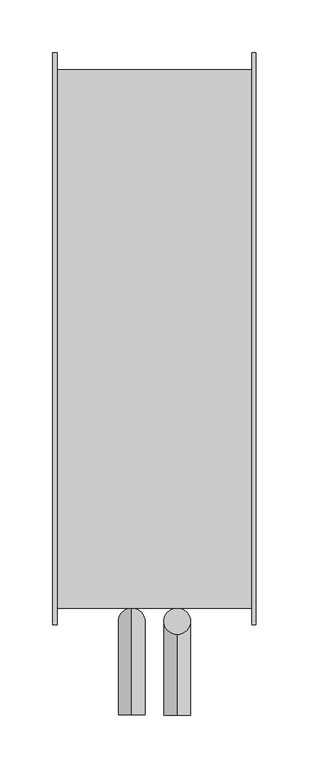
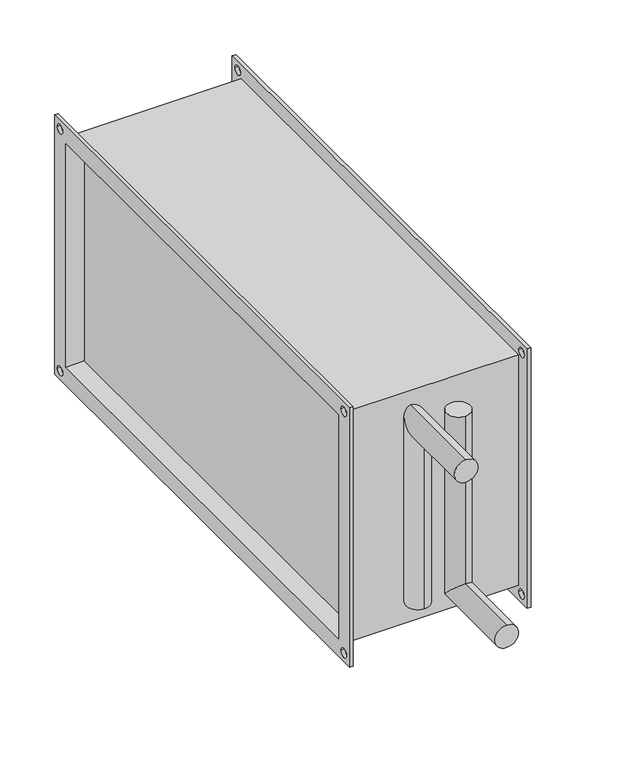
"""IFC4 building model written with IfcOpenShell, lengths in millimetres: proxy geometry, СВ_ВоздухонагревательВодяной_КанальныйПрямоугольный_200-1000_SPH-W : SPH-W-500x250/3."""

from ifc_helpers import new_model, si_unit, frame, origin, place, context, project, spatial, polyline, circle_curve, ellipse_curve, source, transform, mapped, element, save
from ifc_brep_helpers import plane_surface, cylinder_surface, revolved_surface, advanced_brep


def mechanical_equipment_d87ded08(model_context):
    return source(origin(), model_context, "Body", "AdvancedBrep", [
        advanced_brep(
        [(21.5, -254.0, 100.0), (21.5, -279.0, 100.0), (21.5, -254.0, -112.5), (21.5, -279.0, -87.5), (21.5, -355.0, -112.5), (21.5, -355.0, -87.5)],
        [
            (0, 1, circle_curve(frame((21.5, -266.5, 100.0), z_axis=(0.0, 0.0, 1.0), x_axis=(0.0, -1.0, 0.0)), 12.5)),
            (1, 0, circle_curve(frame((21.5, -266.5, 100.0), z_axis=(0.0, 0.0, 1.0), x_axis=(0.0, -1.0, 0.0)), 12.5)),
            (0, 2),
            (2, 3, ellipse_curve(frame((21.5, -266.5, -100.0), z_axis=(0.0, 0.7071067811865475, 0.7071067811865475), x_axis=(0.0, -0.7071067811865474, 0.7071067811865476)), 17.6776695, 12.5)),
            (3, 1),
            (3, 2, ellipse_curve(frame((21.5, -266.5, -100.0), z_axis=(0.0, 0.7071067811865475, 0.7071067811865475), x_axis=(0.0, -0.7071067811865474, 0.7071067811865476)), 17.6776695, 12.5)),
            (4, 5, circle_curve(frame((21.5, -355.0, -100.0), z_axis=(0.0, -1.0, 0.0), x_axis=(0.0, 0.0, 1.0)), 12.5)),
            (5, 4, circle_curve(frame((21.5, -355.0, -100.0), z_axis=(0.0, -1.0, 0.0), x_axis=(0.0, 0.0, 1.0)), 12.5)),
            (2, 4),
            (5, 3),
        ],
        [
            plane_surface(frame((21.5, -266.5, 100.0), z_axis=(0.0, 0.0, 1.0), x_axis=(-1.0, 0.0, 0.0))),
            cylinder_surface(frame((21.5, -266.5, 100.0), z_axis=(0.0, 0.0, 1.0), x_axis=(0.0, -1.0, 0.0)), 12.5),
            plane_surface(frame((21.5, -355.0, -100.0), z_axis=(0.0, -1.0, 0.0), x_axis=(-1.0, 0.0, 0.0))),
            cylinder_surface(frame((21.5, -266.5, -100.0), z_axis=(0.0, 1.0, 0.0), x_axis=(0.0, 0.0, 1.0)), 12.5),
        ],
        [
            (0, [[1, 2]]),
            (1, [[-1, 3, 4, 5]]),
            (1, [[-2, -5, 6, -3]]),
            (2, [[7, 8]]),
            (3, [[-4, 9, -8, 10]]),
            (3, [[-6, -10, -7, -9]]),
        ],
    ),
        advanced_brep(
        [(-21.5, -254.0, -100.0), (-21.5, -279.0, -100.0), (-21.5, -254.0, 112.5), (-21.5, -279.0, 87.5), (-21.5, -355.0, 112.5), (-21.5, -355.0, 87.5)],
        [
            (0, 1, circle_curve(frame((-21.5, -266.5, -100.0), z_axis=(0.0, 0.0, -1.0), x_axis=(0.0, -1.0, 0.0)), 12.5)),
            (1, 0, circle_curve(frame((-21.5, -266.5, -100.0), z_axis=(0.0, 0.0, -1.0), x_axis=(0.0, -1.0, 0.0)), 12.5)),
            (0, 2),
            (2, 3, ellipse_curve(frame((-21.5, -266.5, 100.0), z_axis=(0.0, 0.7071067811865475, -0.7071067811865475), x_axis=(0.0, -0.7071067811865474, -0.7071067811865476)), 17.6776695, 12.5)),
            (3, 1),
            (3, 2, ellipse_curve(frame((-21.5, -266.5, 100.0), z_axis=(0.0, 0.7071067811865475, -0.7071067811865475), x_axis=(0.0, -0.7071067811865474, -0.7071067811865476)), 17.6776695, 12.5)),
            (4, 5, circle_curve(frame((-21.5, -355.0, 100.0), z_axis=(0.0, -1.0, 0.0), x_axis=(0.0, 0.0, -1.0)), 12.5)),
            (5, 4, circle_curve(frame((-21.5, -355.0, 100.0), z_axis=(0.0, -1.0, 0.0), x_axis=(0.0, 0.0, -1.0)), 12.5)),
            (2, 4),
            (5, 3),
        ],
        [
            plane_surface(frame((-21.5, -266.5, -100.0), z_axis=(0.0, 0.0, -1.0), x_axis=(1.0, 0.0, 0.0))),
            cylinder_surface(frame((-21.5, -266.5, -100.0), z_axis=(0.0, 0.0, -1.0), x_axis=(0.0, -1.0, 0.0)), 12.5),
            plane_surface(frame((-21.5, -355.0, 100.0), z_axis=(0.0, -1.0, 0.0), x_axis=(1.0, 0.0, 0.0))),
            cylinder_surface(frame((-21.5, -266.5, 100.0), z_axis=(0.0, 1.0, 0.0), x_axis=(0.0, 0.0, -1.0)), 12.5),
        ],
        [
            (0, [[1, 2]]),
            (1, [[-1, 3, 4, 5]]),
            (1, [[-2, -5, 6, -3]]),
            (2, [[7, 8]]),
            (3, [[-4, 9, -8, 10]]),
            (3, [[-6, -10, -7, -9]]),
        ],
    ),
        advanced_brep(
        [(-92.0, -254.0, 129.0), (-92.0, -254.0, -129.0), (92.0, -254.0, -129.0), (92.0, -254.0, 129.0), (-92.0, 254.0, -129.0), (92.0, 254.0, -129.0), (-92.0, 254.0, 129.0), (92.0, 254.0, 129.0), (76.0, 250.0, -125.0), (76.0, 250.0, 125.0), (76.0, -250.0, 125.0), (76.0, -250.0, -125.0), (-76.0, -250.0, 125.0), (-76.0, 250.0, 125.0), (-76.0, 250.0, -125.0), (-76.0, -250.0, -125.0), (-96.0, -270.0, 145.0), (-96.0, 270.0, 145.0), (-96.0, 270.0, -145.0), (-96.0, -270.0, -145.0), (-96.0, -250.0, 125.0), (-96.0, -250.0, -125.0), (-96.0, 250.0, -125.0), (-96.0, 250.0, 125.0), (-96.0, 255.0, 135.0), (-96.0, 265.0, 135.0), (-96.0, -265.0, 135.0), (-96.0, -255.0, 135.0), (-96.0, -265.0, -135.0), (-96.0, -255.0, -135.0), (-96.0, 255.0, -135.0), (-96.0, 265.0, -135.0), (-92.0, -270.0, 145.0), (-92.0, -270.0, -145.0), (-92.0, 270.0, -145.0), (-92.0, 270.0, 145.0), (-92.0, 265.0, 135.0), (-92.0, 255.0, 135.0), (-92.0, -255.0, 135.0), (-92.0, -265.0, 135.0), (-92.0, -255.0, -135.0), (-92.0, -265.0, -135.0), (-92.0, 265.0, -135.0), (-92.0, 255.0, -135.0), (92.0, 270.0, 145.0), (92.0, 270.0, -145.0), (92.0, -270.0, -145.0), (92.0, -270.0, 145.0), (92.0, 255.0, 135.0), (92.0, 265.0, 135.0), (92.0, -265.0, 135.0), (92.0, -255.0, 135.0), (92.0, -265.0, -135.0), (92.0, -255.0, -135.0), (92.0, 255.0, -135.0), (92.0, 265.0, -135.0), (96.0, 270.0, 145.0), (96.0, -270.0, 145.0), (96.0, -270.0, -145.0), (96.0, 270.0, -145.0), (96.0, 250.0, 125.0), (96.0, 250.0, -125.0), (96.0, -250.0, -125.0), (96.0, -250.0, 125.0), (96.0, 265.0, 135.0), (96.0, 255.0, 135.0), (96.0, -255.0, 135.0), (96.0, -265.0, 135.0), (96.0, -255.0, -135.0), (96.0, -265.0, -135.0), (96.0, 265.0, -135.0), (96.0, 255.0, -135.0)],
        [
            (0, 1),
            (1, 2),
            (2, 3),
            (3, 0),
            (1, 4),
            (4, 5),
            (5, 2),
            (4, 6),
            (6, 7),
            (7, 5),
            (6, 0),
            (3, 7),
            (8, 9),
            (9, 10),
            (10, 11),
            (11, 8),
            (12, 13),
            (13, 14),
            (14, 15),
            (15, 12),
            (16, 17),
            (17, 18),
            (18, 19),
            (19, 16),
            (20, 21),
            (21, 22),
            (22, 23),
            (23, 20),
            (24, 25, circle_curve(frame((-96.0, 260.0, 135.0), z_axis=(1.0, 0.0, 0.0), x_axis=(0.0, -1.0, 0.0)), 5.0)),
            (25, 24, circle_curve(frame((-96.0, 260.0, 135.0), z_axis=(1.0, 0.0, 0.0), x_axis=(0.0, -1.0, 0.0)), 5.0)),
            (26, 27, circle_curve(frame((-96.0, -260.0, 135.0), z_axis=(1.0, 0.0, 0.0), x_axis=(0.0, -1.0, 0.0)), 5.0)),
            (27, 26, circle_curve(frame((-96.0, -260.0, 135.0), z_axis=(1.0, 0.0, 0.0), x_axis=(0.0, -1.0, 0.0)), 5.0)),
            (28, 29, circle_curve(frame((-96.0, -260.0, -135.0), z_axis=(1.0, 0.0, 0.0), x_axis=(0.0, -1.0, 0.0)), 5.0)),
            (29, 28, circle_curve(frame((-96.0, -260.0, -135.0), z_axis=(1.0, 0.0, 0.0), x_axis=(0.0, -1.0, 0.0)), 5.0)),
            (30, 31, circle_curve(frame((-96.0, 260.0, -135.0), z_axis=(1.0, 0.0, 0.0), x_axis=(0.0, -1.0, 0.0)), 5.0)),
            (31, 30, circle_curve(frame((-96.0, 260.0, -135.0), z_axis=(1.0, 0.0, 0.0), x_axis=(0.0, -1.0, 0.0)), 5.0)),
            (32, 33),
            (33, 34),
            (34, 35),
            (35, 32),
            (36, 37, circle_curve(frame((-92.0, 260.0, 135.0), z_axis=(-1.0, 0.0, 0.0), x_axis=(0.0, -1.0, 0.0)), 5.0)),
            (37, 36, circle_curve(frame((-92.0, 260.0, 135.0), z_axis=(-1.0, 0.0, 0.0), x_axis=(0.0, -1.0, 0.0)), 5.0)),
            (38, 39, circle_curve(frame((-92.0, -260.0, 135.0), z_axis=(-1.0, 0.0, 0.0), x_axis=(0.0, -1.0, 0.0)), 5.0)),
            (39, 38, circle_curve(frame((-92.0, -260.0, 135.0), z_axis=(-1.0, 0.0, 0.0), x_axis=(0.0, -1.0, 0.0)), 5.0)),
            (40, 41, circle_curve(frame((-92.0, -260.0, -135.0), z_axis=(-1.0, 0.0, 0.0), x_axis=(0.0, -1.0, 0.0)), 5.0)),
            (41, 40, circle_curve(frame((-92.0, -260.0, -135.0), z_axis=(-1.0, 0.0, 0.0), x_axis=(0.0, -1.0, 0.0)), 5.0)),
            (42, 43, circle_curve(frame((-92.0, 260.0, -135.0), z_axis=(-1.0, 0.0, 0.0), x_axis=(0.0, -1.0, 0.0)), 5.0)),
            (43, 42, circle_curve(frame((-92.0, 260.0, -135.0), z_axis=(-1.0, 0.0, 0.0), x_axis=(0.0, -1.0, 0.0)), 5.0)),
            (19, 33),
            (32, 16),
            (18, 34),
            (17, 35),
            (44, 45),
            (45, 46),
            (46, 47),
            (47, 44),
            (48, 49, circle_curve(frame((92.0, 260.0, 135.0), z_axis=(1.0, 0.0, 0.0), x_axis=(0.0, -1.0, 0.0)), 5.0)),
            (49, 48, circle_curve(frame((92.0, 260.0, 135.0), z_axis=(1.0, 0.0, 0.0), x_axis=(0.0, -1.0, 0.0)), 5.0)),
            (50, 51, circle_curve(frame((92.0, -260.0, 135.0), z_axis=(1.0, 0.0, 0.0), x_axis=(0.0, -1.0, 0.0)), 5.0)),
            (51, 50, circle_curve(frame((92.0, -260.0, 135.0), z_axis=(1.0, 0.0, 0.0), x_axis=(0.0, -1.0, 0.0)), 5.0)),
            (52, 53, circle_curve(frame((92.0, -260.0, -135.0), z_axis=(1.0, 0.0, 0.0), x_axis=(0.0, -1.0, 0.0)), 5.0)),
            (53, 52, circle_curve(frame((92.0, -260.0, -135.0), z_axis=(1.0, 0.0, 0.0), x_axis=(0.0, -1.0, 0.0)), 5.0)),
            (54, 55, circle_curve(frame((92.0, 260.0, -135.0), z_axis=(1.0, 0.0, 0.0), x_axis=(0.0, -1.0, 0.0)), 5.0)),
            (55, 54, circle_curve(frame((92.0, 260.0, -135.0), z_axis=(1.0, 0.0, 0.0), x_axis=(0.0, -1.0, 0.0)), 5.0)),
            (56, 57),
            (57, 58),
            (58, 59),
            (59, 56),
            (60, 61),
            (61, 62),
            (62, 63),
            (63, 60),
            (64, 65, circle_curve(frame((96.0, 260.0, 135.0), z_axis=(-1.0, 0.0, 0.0), x_axis=(0.0, -1.0, 0.0)), 5.0)),
            (65, 64, circle_curve(frame((96.0, 260.0, 135.0), z_axis=(-1.0, 0.0, 0.0), x_axis=(0.0, -1.0, 0.0)), 5.0)),
            (66, 67, circle_curve(frame((96.0, -260.0, 135.0), z_axis=(-1.0, 0.0, 0.0), x_axis=(0.0, -1.0, 0.0)), 5.0)),
            (67, 66, circle_curve(frame((96.0, -260.0, 135.0), z_axis=(-1.0, 0.0, 0.0), x_axis=(0.0, -1.0, 0.0)), 5.0)),
            (68, 69, circle_curve(frame((96.0, -260.0, -135.0), z_axis=(-1.0, 0.0, 0.0), x_axis=(0.0, -1.0, 0.0)), 5.0)),
            (69, 68, circle_curve(frame((96.0, -260.0, -135.0), z_axis=(-1.0, 0.0, 0.0), x_axis=(0.0, -1.0, 0.0)), 5.0)),
            (70, 71, circle_curve(frame((96.0, 260.0, -135.0), z_axis=(-1.0, 0.0, 0.0), x_axis=(0.0, -1.0, 0.0)), 5.0)),
            (71, 70, circle_curve(frame((96.0, 260.0, -135.0), z_axis=(-1.0, 0.0, 0.0), x_axis=(0.0, -1.0, 0.0)), 5.0)),
            (47, 57),
            (56, 44),
            (46, 58),
            (45, 59),
            (23, 13),
            (12, 20),
            (22, 14),
            (21, 15),
            (60, 9),
            (8, 61),
            (11, 62),
            (10, 63),
            (36, 25),
            (24, 37),
            (64, 49),
            (48, 65),
            (38, 27),
            (26, 39),
            (66, 51),
            (50, 67),
            (40, 29),
            (28, 41),
            (68, 53),
            (52, 69),
            (42, 31),
            (30, 43),
            (70, 55),
            (54, 71),
        ],
        [
            plane_surface(frame((-76.0, -254.0, 129.0), z_axis=(0.0, -1.0, 0.0), x_axis=(-1.0, 0.0, 0.0))),
            plane_surface(frame((-76.0, -254.0, -129.0), z_axis=(0.0, 0.0, -1.0), x_axis=(-1.0, 0.0, 0.0))),
            plane_surface(frame((-76.0, 254.0, -129.0), z_axis=(0.0, 1.0, 0.0), x_axis=(-1.0, 0.0, 0.0))),
            plane_surface(frame((-76.0, 254.0, 129.0), z_axis=(0.0, 0.0, 1.0), x_axis=(-1.0, 0.0, 0.0))),
            plane_surface(frame((76.0, -254.0, 129.0), z_axis=(1.0, 0.0, 0.0), x_axis=(0.0, 0.0, -1.0))),
            plane_surface(frame((-76.0, -254.0, 129.0), z_axis=(-1.0, 0.0, 0.0), x_axis=(0.0, 0.0, 1.0))),
            plane_surface(frame((-96.0, -270.0, 145.0), z_axis=(-1.0, 0.0, 0.0), x_axis=(0.0, 0.0, 1.0))),
            plane_surface(frame((-92.0, -270.0, 145.0), z_axis=(1.0, 0.0, 0.0), x_axis=(0.0, 0.0, -1.0))),
            plane_surface(frame((-92.0, -270.0, 145.0), z_axis=(0.0, -1.0, 0.0), x_axis=(-1.0, 0.0, 0.0))),
            plane_surface(frame((-92.0, -270.0, -145.0), z_axis=(0.0, 0.0, -1.0), x_axis=(-1.0, 0.0, 0.0))),
            plane_surface(frame((-92.0, 270.0, -145.0), z_axis=(0.0, 1.0, 0.0), x_axis=(-1.0, 0.0, 0.0))),
            plane_surface(frame((-92.0, 270.0, 145.0), z_axis=(0.0, 0.0, 1.0), x_axis=(-1.0, 0.0, 0.0))),
            plane_surface(frame((92.0, 250.0, -125.0), z_axis=(-1.0, 0.0, 0.0), x_axis=(0.0, 0.0, 1.0))),
            plane_surface(frame((96.0, 250.0, -125.0), z_axis=(1.0, 0.0, 0.0), x_axis=(0.0, 0.0, -1.0))),
            plane_surface(frame((96.0, 270.0, 145.0), z_axis=(0.0, 0.0, 1.0), x_axis=(-1.0, 0.0, 0.0))),
            plane_surface(frame((96.0, -270.0, 145.0), z_axis=(0.0, -1.0, 0.0), x_axis=(-1.0, 0.0, 0.0))),
            plane_surface(frame((96.0, -270.0, -145.0), z_axis=(0.0, 0.0, -1.0), x_axis=(-1.0, 0.0, 0.0))),
            plane_surface(frame((96.0, 270.0, -145.0), z_axis=(0.0, 1.0, 0.0), x_axis=(-1.0, 0.0, 0.0))),
            plane_surface(frame((-92.0, -250.0, 125.0), z_axis=(0.0, 0.0, -1.0), x_axis=(-1.0, 0.0, 0.0))),
            plane_surface(frame((-92.0, 250.0, 125.0), z_axis=(0.0, -1.0, 0.0), x_axis=(-1.0, 0.0, 0.0))),
            plane_surface(frame((-92.0, 250.0, -125.0), z_axis=(0.0, 0.0, 1.0), x_axis=(-1.0, 0.0, 0.0))),
            plane_surface(frame((-92.0, -250.0, -125.0), z_axis=(0.0, 1.0, 0.0), x_axis=(-1.0, 0.0, 0.0))),
            plane_surface(frame((96.0, 250.0, 125.0), z_axis=(0.0, -1.0, 0.0), x_axis=(-1.0, 0.0, 0.0))),
            plane_surface(frame((96.0, 250.0, -125.0), z_axis=(0.0, 0.0, 1.0), x_axis=(-1.0, 0.0, 0.0))),
            plane_surface(frame((96.0, -250.0, -125.0), z_axis=(0.0, 1.0, 0.0), x_axis=(-1.0, 0.0, 0.0))),
            plane_surface(frame((96.0, -250.0, 125.0), z_axis=(0.0, 0.0, -1.0), x_axis=(-1.0, 0.0, 0.0))),
            revolved_surface(polyline([(-96.0, 255.0, 135.0), (-92.0, 255.0, 135.0)]), (96.0, 260.0, 135.0), (-1.0, 0.0, 0.0)),
            revolved_surface(polyline([(92.0, 255.0, 135.0), (96.0, 255.0, 135.0)]), (96.0, 260.0, 135.0), (-1.0, 0.0, 0.0)),
            revolved_surface(polyline([(-96.0, -265.0, 135.0), (-92.0, -265.0, 135.0)]), (21.5, -260.0, 135.0), (-1.0, 0.0, 0.0)),
            revolved_surface(polyline([(92.0, -265.0, 135.0), (96.0, -265.0, 135.0)]), (21.5, -260.0, 135.0), (-1.0, 0.0, 0.0)),
            revolved_surface(polyline([(-96.0, -265.0, -135.0), (-92.0, -265.0, -135.0)]), (21.5, -260.0, -135.0), (-1.0, 0.0, 0.0)),
            revolved_surface(polyline([(92.0, -265.0, -135.0), (96.0, -265.0, -135.0)]), (21.5, -260.0, -135.0), (-1.0, 0.0, 0.0)),
            revolved_surface(polyline([(-96.0, 255.0, -135.0), (-92.0, 255.0, -135.0)]), (21.5, 260.0, -135.0), (-1.0, 0.0, 0.0)),
            revolved_surface(polyline([(92.0, 255.0, -135.0), (96.0, 255.0, -135.0)]), (21.5, 260.0, -135.0), (-1.0, 0.0, 0.0)),
        ],
        [
            (0, [[1, 2, 3, 4]]),
            (1, [[-2, 5, 6, 7]]),
            (2, [[-6, 8, 9, 10]]),
            (3, [[-9, 11, -4, 12]]),
            (4, [[13, 14, 15, 16]]),
            (5, [[17, 18, 19, 20]]),
            (6, [[21, 22, 23, 24], [25, 26, 27, 28], [29, 30], [31, 32], [33, 34], [35, 36]]),
            (7, [[37, 38, 39, 40], [-1, -11, -8, -5], [41, 42], [43, 44], [45, 46], [47, 48]]),
            (8, [[-24, 49, -37, 50]]),
            (9, [[-23, 51, -38, -49]]),
            (10, [[-22, 52, -39, -51]]),
            (11, [[-21, -50, -40, -52]]),
            (12, [[53, 54, 55, 56], [-3, -7, -10, -12], [57, 58], [59, 60], [61, 62], [63, 64]]),
            (13, [[65, 66, 67, 68], [69, 70, 71, 72], [73, 74], [75, 76], [77, 78], [79, 80]]),
            (14, [[-56, 81, -65, 82]]),
            (15, [[-55, 83, -66, -81]]),
            (16, [[-54, 84, -67, -83]]),
            (17, [[-53, -82, -68, -84]]),
            (18, [[-28, 85, -17, 86]]),
            (19, [[-27, 87, -18, -85]]),
            (20, [[-26, 88, -19, -87]]),
            (21, [[-25, -86, -20, -88]]),
            (22, [[-69, 89, -13, 90]]),
            (23, [[-70, -90, -16, 91]]),
            (24, [[-71, -91, -15, 92]]),
            (25, [[-89, -72, -92, -14]]),
            (26, [[93, -29, 94, -41]]),
            (27, [[95, -57, 96, -73]]),
            (26, [[-93, -42, -94, -30]]),
            (27, [[-95, -74, -96, -58]]),
            (28, [[97, -31, 98, -43]]),
            (29, [[99, -59, 100, -75]]),
            (28, [[-97, -44, -98, -32]]),
            (29, [[-99, -76, -100, -60]]),
            (30, [[101, -33, 102, -45]]),
            (31, [[103, -61, 104, -77]]),
            (30, [[-101, -46, -102, -34]]),
            (31, [[-103, -78, -104, -62]]),
            (32, [[105, -35, 106, -47]]),
            (33, [[107, -63, 108, -79]]),
            (32, [[-105, -48, -106, -36]]),
            (33, [[-107, -80, -108, -64]]),
        ],
    ),
    ])


if __name__ == "__main__":
    model = new_model("IFC4")
    model_context = context("Model", 3, world=origin())
    ifc_project = project(units=[si_unit("LENGTHUNIT", "METRE", prefix="MILLI")], contexts=[model_context])
    site = spatial("IfcSite", under=ifc_project)
    building = spatial("IfcBuilding", under=site)
    placement = place(None, origin())
    mechanical_equipment_shape = mechanical_equipment_d87ded08(model_context)
    element("IfcBuildingElementProxy", 1, Name="СВ_ВоздухонагревательВодяной_КанальныйПрямоугольный_200-1000_SPH-W : SPH-W-500x250/3", ObjectType="СВ_ВоздухонагревательВодяной_КанальныйПрямоугольный_200-1000_SPH-W : SPH-W-500x250/3", at=placement, inside=building, context=model_context, shape_type="MappedRepresentation", body=[
        mapped(mechanical_equipment_shape, transform((0.0, 0.0, 0.0), x_axis=(1.0, 0.0, 0.0), y_axis=(0.0, 1.0, 0.0), z_axis=(0.0, 0.0, 1.0))),
    ])
    save(model, "model.ifc")
